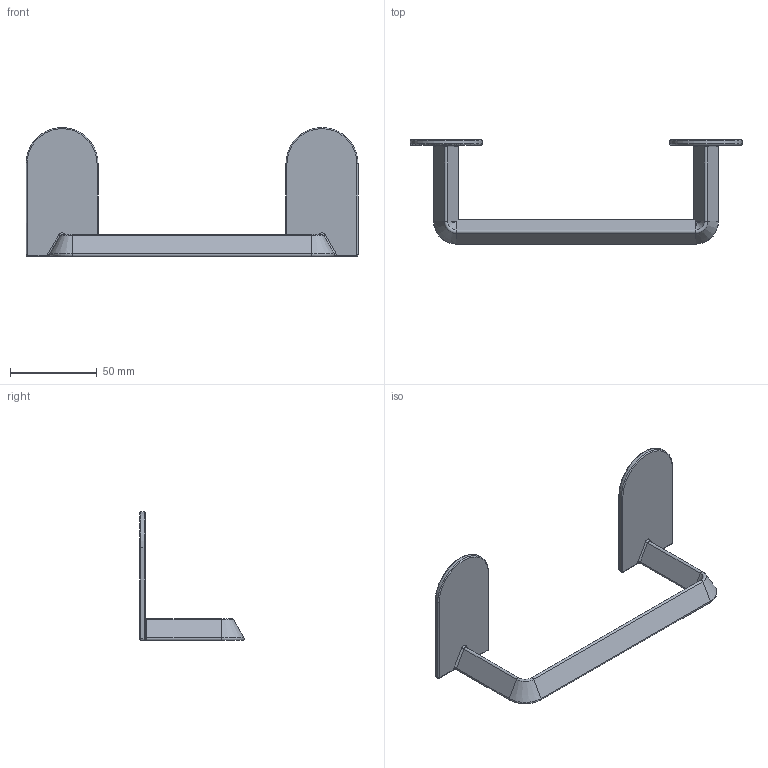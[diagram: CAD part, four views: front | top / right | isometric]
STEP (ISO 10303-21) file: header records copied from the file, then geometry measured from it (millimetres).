
FILE_DESCRIPTION(/* description */ (''),/* implementation_level */ '2;1');
FILE_NAME(/* name */ 'Small Tool Rack.step',/* time_stamp */ '2025-11-19T10:21:15-08:00',/* author */ (''),/* organization */ (''),/* preprocessor_version */ 'ST-DEVELOPER v20.1',/* originating_system */ 'Autodesk Translation Framework v14.21.0.0',/* authorisation */ '');
FILE_SCHEMA (('AUTOMOTIVE_DESIGN { 1 0 10303 214 3 1 1 }'));
Length unit declared in the file: millimetre
Products named in the file (1): Holder
Bounding box: 191.6 x 60.15 x 74.31 mm (x, y, z)
Volume: 43272.2 mm3; surface area: 22991.5 mm2
Topology: 1 solids, 1 shells, 81 faces, 192 edges, 110 vertices
Faces by surface type: cylinder 33, plane 19, bspline 13, torus 12, cone 4
Entity records: 2758 total; most frequent: CARTESIAN_POINT 906, DIRECTION 390, ORIENTED_EDGE 378, EDGE_CURVE 189, AXIS2_PLACEMENT_3D 154, VERTEX_POINT 110, CIRCLE 83, LINE 82
